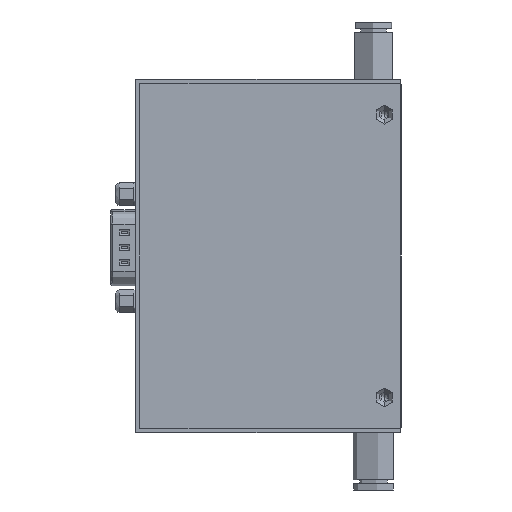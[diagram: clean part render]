
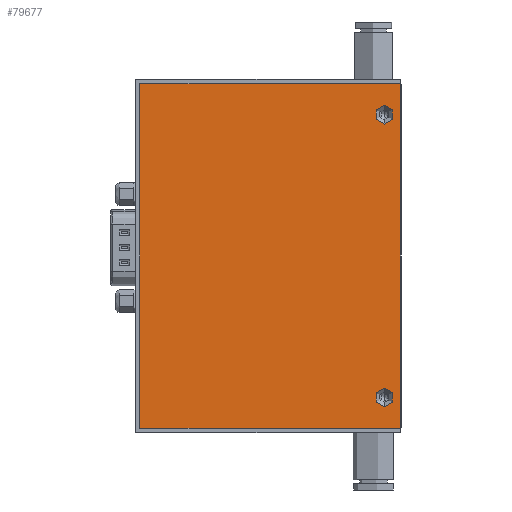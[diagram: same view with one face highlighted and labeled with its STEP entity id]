
A CAD part, left-side view. The second image highlights one B-rep face of the part: STEP entity #79677.
In plain terms, the highlighted planar face has unit normal (-1, 0, 0) as drawn and (0, 0, -1) by its records, which use the part's own axes.
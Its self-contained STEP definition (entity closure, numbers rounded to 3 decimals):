
#3457 = FACE_OUTER_BOUND ( 'NONE', #42095, .T. ) ;
#3516 = CARTESIAN_POINT ( 'NONE',  ( 7.2, -57., 0. ) ) ;
#4221 = CARTESIAN_POINT ( 'NONE',  ( 0., 0., 0. ) ) ;
#4281 = VECTOR ( 'NONE', #34027, 1000. ) ;
#4408 = EDGE_CURVE ( 'NONE', #27629, #6819, #59818, .T. ) ;
#5160 = EDGE_CURVE ( 'NONE', #30477, #21216, #51707, .T. ) ;
#6819 = VERTEX_POINT ( 'NONE', #30839 ) ;
#7850 = AXIS2_PLACEMENT_3D ( 'NONE', #21687, #8697, #54900 ) ;
#8697 = DIRECTION ( 'NONE',  ( 0., 0., -1. ) ) ;
#9273 = ORIENTED_EDGE ( 'NONE', *, *, #30908, .F. ) ;
#9948 = AXIS2_PLACEMENT_3D ( 'NONE', #73914, #80136, #61346 ) ;
#10959 = CARTESIAN_POINT ( 'NONE',  ( 71., -57., 0. ) ) ;
#11133 = ORIENTED_EDGE ( 'NONE', *, *, #18297, .F. ) ;
#11299 = VERTEX_POINT ( 'NONE', #17376 ) ;
#14283 = AXIS2_PLACEMENT_3D ( 'NONE', #35527, #48887, #62299 ) ;
#17376 = CARTESIAN_POINT ( 'NONE',  ( 75.4, -57., 0. ) ) ;
#18297 = EDGE_CURVE ( 'NONE', #58781, #23451, #30683, .T. ) ;
#19263 = CIRCLE ( 'NONE', #40140, 2.2 ) ;
#19586 = DIRECTION ( 'NONE',  ( -1., 0., 0. ) ) ;
#20482 = VERTEX_POINT ( 'NONE', #10959 ) ;
#21216 = VERTEX_POINT ( 'NONE', #84401 ) ;
#21687 = CARTESIAN_POINT ( 'NONE',  ( 7.2, -57., 0. ) ) ;
#22147 = VECTOR ( 'NONE', #42019, 1000. ) ;
#23451 = VERTEX_POINT ( 'NONE', #60847 ) ;
#24571 = VECTOR ( 'NONE', #62720, 1000. ) ;
#25062 = EDGE_LOOP ( 'NONE', ( #9273, #38071 ) ) ;
#27500 = CARTESIAN_POINT ( 'NONE',  ( 0., -60.8, 0. ) ) ;
#27629 = VERTEX_POINT ( 'NONE', #78209 ) ;
#27822 = ORIENTED_EDGE ( 'NONE', *, *, #71662, .F. ) ;
#28614 = CIRCLE ( 'NONE', #9948, 2.2 ) ;
#30412 = DIRECTION ( 'NONE',  ( 0., 0., -1. ) ) ;
#30477 = VERTEX_POINT ( 'NONE', #73197 ) ;
#30683 = LINE ( 'NONE', #4221, #24571 ) ;
#30839 = CARTESIAN_POINT ( 'NONE',  ( 80.4, 0., 0. ) ) ;
#30872 = FACE_BOUND ( 'NONE', #36873, .T. ) ;
#30908 = EDGE_CURVE ( 'NONE', #20482, #11299, #51050, .T. ) ;
#31097 = EDGE_CURVE ( 'NONE', #11299, #20482, #28614, .T. ) ;
#33360 = ORIENTED_EDGE ( 'NONE', *, *, #53394, .F. ) ;
#34027 = DIRECTION ( 'NONE',  ( 1., 0., 0. ) ) ;
#34435 = LINE ( 'NONE', #76803, #57890 ) ;
#35527 = CARTESIAN_POINT ( 'NONE',  ( 73.2, -57., 0. ) ) ;
#36873 = EDGE_LOOP ( 'NONE', ( #33360, #51449 ) ) ;
#38071 = ORIENTED_EDGE ( 'NONE', *, *, #31097, .F. ) ;
#40140 = AXIS2_PLACEMENT_3D ( 'NONE', #3516, #30412, #75973 ) ;
#42019 = DIRECTION ( 'NONE',  ( 0., 1., 0. ) ) ;
#42095 = EDGE_LOOP ( 'NONE', ( #11133, #52336, #83046, #27822 ) ) ;
#44271 = PLANE ( 'NONE',  #83682 ) ;
#48887 = DIRECTION ( 'NONE',  ( 0., 0., -1. ) ) ;
#51050 = CIRCLE ( 'NONE', #14283, 2.2 ) ;
#51449 = ORIENTED_EDGE ( 'NONE', *, *, #5160, .F. ) ;
#51707 = CIRCLE ( 'NONE', #7850, 2.2 ) ;
#52336 = ORIENTED_EDGE ( 'NONE', *, *, #81727, .F. ) ;
#53394 = EDGE_CURVE ( 'NONE', #21216, #30477, #19263, .T. ) ;
#54900 = DIRECTION ( 'NONE',  ( -1., 0., 0. ) ) ;
#57890 = VECTOR ( 'NONE', #19586, 1000. ) ;
#58781 = VERTEX_POINT ( 'NONE', #72670 ) ;
#59818 = LINE ( 'NONE', #61128, #22147 ) ;
#60847 = CARTESIAN_POINT ( 'NONE',  ( 0., -60.8, 0. ) ) ;
#61128 = CARTESIAN_POINT ( 'NONE',  ( 80.4, 0., 0. ) ) ;
#61346 = DIRECTION ( 'NONE',  ( -1., 0., 0. ) ) ;
#62299 = DIRECTION ( 'NONE',  ( -1., 0., 0. ) ) ;
#62720 = DIRECTION ( 'NONE',  ( 0., -1., 0. ) ) ;
#69332 = LINE ( 'NONE', #27500, #4281 ) ;
#69946 = DIRECTION ( 'NONE',  ( 0., 0., 1. ) ) ;
#71662 = EDGE_CURVE ( 'NONE', #23451, #27629, #69332, .T. ) ;
#72670 = CARTESIAN_POINT ( 'NONE',  ( 0., 0., 0. ) ) ;
#73197 = CARTESIAN_POINT ( 'NONE',  ( 9.4, -57., 0. ) ) ;
#73914 = CARTESIAN_POINT ( 'NONE',  ( 73.2, -57., 0. ) ) ;
#75973 = DIRECTION ( 'NONE',  ( -1., 0., 0. ) ) ;
#76197 = CARTESIAN_POINT ( 'NONE',  ( 0., 0., 0. ) ) ;
#76803 = CARTESIAN_POINT ( 'NONE',  ( 0., 0., 0. ) ) ;
#78209 = CARTESIAN_POINT ( 'NONE',  ( 80.4, -60.8, 0. ) ) ;
#79677 = ADVANCED_FACE ( 'NONE', ( #80743, #30872, #3457 ), #44271, .F. ) ;
#80136 = DIRECTION ( 'NONE',  ( 0., 0., -1. ) ) ;
#80743 = FACE_BOUND ( 'NONE', #25062, .T. ) ;
#81727 = EDGE_CURVE ( 'NONE', #6819, #58781, #34435, .T. ) ;
#83024 = DIRECTION ( 'NONE',  ( 1., 0., 0. ) ) ;
#83046 = ORIENTED_EDGE ( 'NONE', *, *, #4408, .F. ) ;
#83682 = AXIS2_PLACEMENT_3D ( 'NONE', #76197, #69946, #83024 ) ;
#84401 = CARTESIAN_POINT ( 'NONE',  ( 5., -57., 0. ) ) ;
